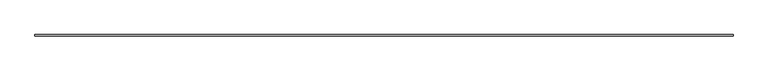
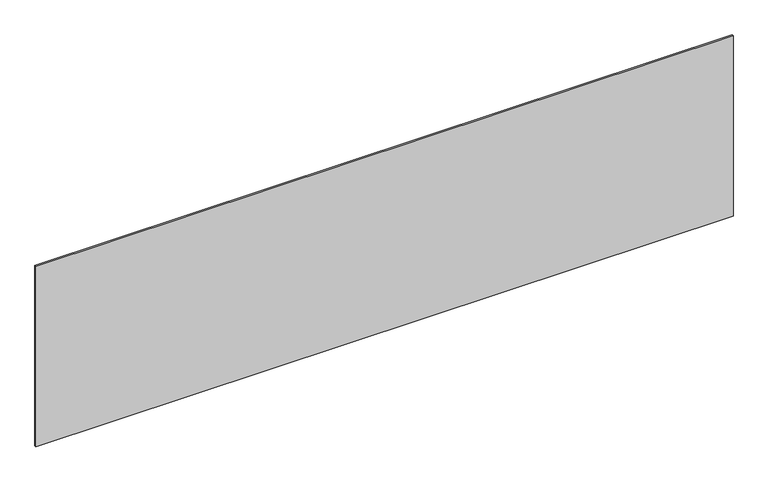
"""IFC4 building model written with IfcOpenShell, lengths in millimetres: plate geometry, システム パネル : 標準."""

from ifc_helpers import new_model, si_unit, origin, origin_with_axes, place, context, project, spatial, polyline, outline, extrude, source, transform, mapped, element, save


def plate_b0379a14(model_context):
    return source(origin(), model_context, "Body", "SweptSolid", [
        extrude(outline(polyline([(2281.6666667, -5.0), (-2281.6666667, -5.0), (-2281.6666667, 5.0), (2281.6666667, 5.0), (2281.6666667, -5.0)])), origin_with_axes(), (0.0, 0.0, 1.0), 1249.3695227),
    ])


if __name__ == "__main__":
    model = new_model("IFC4")
    model_context = context("Model", 3, world=origin())
    ifc_project = project(units=[si_unit("LENGTHUNIT", "METRE", prefix="MILLI")], contexts=[model_context])
    site = spatial("IfcSite", under=ifc_project)
    building = spatial("IfcBuilding", under=site)
    placement = place(None, origin())
    plate_shape = plate_b0379a14(model_context)
    element("IfcPlate", 1, ObjectType="システム パネル : 標準", at=placement, inside=building, context=model_context, shape_type="MappedRepresentation", body=[
        mapped(plate_shape, transform((0.0, 0.0, 0.0), x_axis=(1.0, 0.0, 0.0), y_axis=(0.0, 1.0, 0.0), z_axis=(0.0, 0.0, 1.0))),
    ])
    save(model, "model.ifc")
